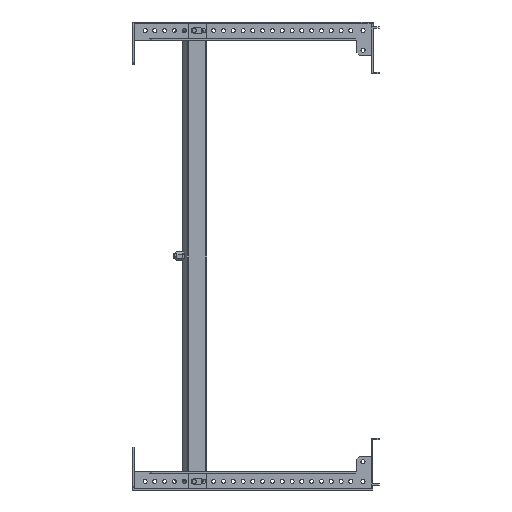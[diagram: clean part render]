
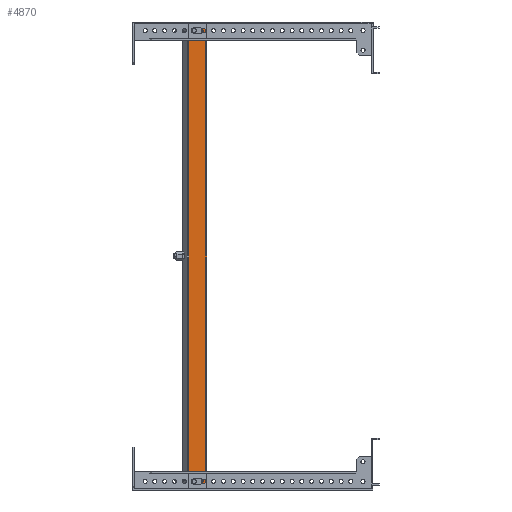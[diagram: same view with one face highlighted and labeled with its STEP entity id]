
A CAD part, front view. The second image highlights one B-rep face of the part: STEP entity #4870.
In plain terms, the highlighted planar face has unit normal (0, -1, 0).
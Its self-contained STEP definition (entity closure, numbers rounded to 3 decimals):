
#379 = CARTESIAN_POINT ( 'NONE',  ( 1108.802, -254., -87.5 ) ) ;
#397 = DIRECTION ( 'NONE',  ( 0., 0., 1. ) ) ;
#496 = CARTESIAN_POINT ( 'NONE',  ( 1112.302, -254., -91. ) ) ;
#962 = EDGE_CURVE ( 'NONE', #21943, #27904, #20774, .T. ) ;
#1446 = CARTESIAN_POINT ( 'NONE',  ( 1112.302, -254., -84. ) ) ;
#1612 = DIRECTION ( 'NONE',  ( 1., 0., 0. ) ) ;
#2038 = ORIENTED_EDGE ( 'NONE', *, *, #4882, .T. ) ;
#3111 = CIRCLE ( 'NONE', #27815, 3.5 ) ;
#3124 = VERTEX_POINT ( 'NONE', #3673 ) ;
#3562 = CARTESIAN_POINT ( 'NONE',  ( 1112.302, -254., 487.5 ) ) ;
#3673 = CARTESIAN_POINT ( 'NONE',  ( 1128.304, -254., 497.5 ) ) ;
#4023 = DIRECTION ( 'NONE',  ( 0., 0., 1. ) ) ;
#4119 = AXIS2_PLACEMENT_3D ( 'NONE', #12799, #22494, #22217 ) ;
#4790 = CIRCLE ( 'NONE', #29476, 3.5 ) ;
#4855 = CARTESIAN_POINT ( 'NONE',  ( 1120.302, -254., 484. ) ) ;
#4870 = ADVANCED_FACE ( 'NONE', ( #17537, #10420, #27213 ), #20281, .F. ) ;
#4882 = EDGE_CURVE ( 'NONE', #24624, #18056, #8671, .T. ) ;
#4948 = DIRECTION ( 'NONE',  ( -1., 0., 0. ) ) ;
#4950 = EDGE_CURVE ( 'NONE', #23881, #22198, #11772, .T. ) ;
#5260 = EDGE_CURVE ( 'NONE', #18056, #18925, #4790, .T. ) ;
#5887 = VERTEX_POINT ( 'NONE', #9719 ) ;
#6214 = CARTESIAN_POINT ( 'NONE',  ( 1105.802, -254., -97.5 ) ) ;
#6742 = ORIENTED_EDGE ( 'NONE', *, *, #20027, .F. ) ;
#6854 = EDGE_CURVE ( 'NONE', #15918, #23410, #3111, .T. ) ;
#7097 = CIRCLE ( 'NONE', #27437, 3.5 ) ;
#7559 = ORIENTED_EDGE ( 'NONE', *, *, #4950, .F. ) ;
#7728 = ORIENTED_EDGE ( 'NONE', *, *, #15025, .T. ) ;
#8061 = CARTESIAN_POINT ( 'NONE',  ( 1112.302, -254., 491. ) ) ;
#8135 = VECTOR ( 'NONE', #4948, 1000. ) ;
#8215 = CARTESIAN_POINT ( 'NONE',  ( 1120.302, -254., 487.5 ) ) ;
#8283 = DIRECTION ( 'NONE',  ( 0., 1., 0. ) ) ;
#8671 = CIRCLE ( 'NONE', #21239, 3.5 ) ;
#8930 = CARTESIAN_POINT ( 'NONE',  ( 1105.802, -254., 497.5 ) ) ;
#9087 = CARTESIAN_POINT ( 'NONE',  ( 1112.302, -254., -91. ) ) ;
#9719 = CARTESIAN_POINT ( 'NONE',  ( 1120.302, -254., -91. ) ) ;
#9921 = CARTESIAN_POINT ( 'NONE',  ( 1112.302, -254., 484. ) ) ;
#10133 = EDGE_LOOP ( 'NONE', ( #2038, #23129, #14153, #16650, #19916 ) ) ;
#10176 = CARTESIAN_POINT ( 'NONE',  ( 1112.302, -254., 484. ) ) ;
#10420 = FACE_BOUND ( 'NONE', #10133, .T. ) ;
#10602 = LINE ( 'NONE', #15451, #27401 ) ;
#10831 = DIRECTION ( 'NONE',  ( -1., 0., 0. ) ) ;
#11023 = ORIENTED_EDGE ( 'NONE', *, *, #15447, .F. ) ;
#11072 = EDGE_CURVE ( 'NONE', #12946, #5887, #15477, .T. ) ;
#11315 = CARTESIAN_POINT ( 'NONE',  ( 1112.302, -254., -84. ) ) ;
#11672 = CARTESIAN_POINT ( 'NONE',  ( 1105.802, -254., -97.5 ) ) ;
#11772 = LINE ( 'NONE', #11315, #22696 ) ;
#11850 = VECTOR ( 'NONE', #1612, 1000. ) ;
#11984 = EDGE_LOOP ( 'NONE', ( #18704, #29131, #17160, #7728 ) ) ;
#12098 = DIRECTION ( 'NONE',  ( 0., -1., 0. ) ) ;
#12520 = CIRCLE ( 'NONE', #29455, 3.5 ) ;
#12799 = CARTESIAN_POINT ( 'NONE',  ( 1120.302, -254., -87.5 ) ) ;
#12932 = DIRECTION ( 'NONE',  ( 0., 1., 0. ) ) ;
#12933 = DIRECTION ( 'NONE',  ( 1., 0., 0. ) ) ;
#12946 = VERTEX_POINT ( 'NONE', #496 ) ;
#13287 = CARTESIAN_POINT ( 'NONE',  ( 1150.77, -254., 200. ) ) ;
#13431 = VECTOR ( 'NONE', #28248, 1000. ) ;
#14153 = ORIENTED_EDGE ( 'NONE', *, *, #24296, .T. ) ;
#14338 = VECTOR ( 'NONE', #27260, 1000. ) ;
#14521 = DIRECTION ( 'NONE',  ( -1., 0., 0. ) ) ;
#14991 = EDGE_LOOP ( 'NONE', ( #27197, #15900, #6742, #7559, #11023 ) ) ;
#15025 = EDGE_CURVE ( 'NONE', #25368, #3124, #10602, .T. ) ;
#15083 = CARTESIAN_POINT ( 'NONE',  ( 1112.302, -254., 487.5 ) ) ;
#15447 = EDGE_CURVE ( 'NONE', #5887, #23881, #20581, .T. ) ;
#15451 = CARTESIAN_POINT ( 'NONE',  ( 1128.304, -254., -100.859 ) ) ;
#15477 = LINE ( 'NONE', #9087, #11850 ) ;
#15896 = DIRECTION ( 'NONE',  ( -1., 0., 0. ) ) ;
#15900 = ORIENTED_EDGE ( 'NONE', *, *, #18035, .F. ) ;
#15918 = VERTEX_POINT ( 'NONE', #27744 ) ;
#16502 = CARTESIAN_POINT ( 'NONE',  ( 1112.302, -254., -87.5 ) ) ;
#16650 = ORIENTED_EDGE ( 'NONE', *, *, #6854, .T. ) ;
#16928 = CARTESIAN_POINT ( 'NONE',  ( 1128.304, -254., -97.5 ) ) ;
#16941 = CARTESIAN_POINT ( 'NONE',  ( 1108.802, -254., 487.5 ) ) ;
#17160 = ORIENTED_EDGE ( 'NONE', *, *, #19542, .F. ) ;
#17402 = DIRECTION ( 'NONE',  ( 1., 0., 0. ) ) ;
#17537 = FACE_BOUND ( 'NONE', #14991, .T. ) ;
#18035 = EDGE_CURVE ( 'NONE', #26982, #12946, #7097, .T. ) ;
#18038 = LINE ( 'NONE', #8930, #14338 ) ;
#18056 = VERTEX_POINT ( 'NONE', #16941 ) ;
#18704 = ORIENTED_EDGE ( 'NONE', *, *, #26020, .F. ) ;
#18925 = VERTEX_POINT ( 'NONE', #19433 ) ;
#19433 = CARTESIAN_POINT ( 'NONE',  ( 1112.302, -254., 491. ) ) ;
#19542 = EDGE_CURVE ( 'NONE', #25368, #21943, #28146, .T. ) ;
#19666 = DIRECTION ( 'NONE',  ( -1., 0., 0. ) ) ;
#19745 = DIRECTION ( 'NONE',  ( -1., 0., 0. ) ) ;
#19916 = ORIENTED_EDGE ( 'NONE', *, *, #28604, .T. ) ;
#20020 = DIRECTION ( 'NONE',  ( 0., -1., 0. ) ) ;
#20027 = EDGE_CURVE ( 'NONE', #22198, #26982, #12520, .T. ) ;
#20281 = PLANE ( 'NONE',  #28013 ) ;
#20581 = CIRCLE ( 'NONE', #4119, 3.5 ) ;
#20774 = LINE ( 'NONE', #6214, #23825 ) ;
#21154 = VECTOR ( 'NONE', #12933, 1000. ) ;
#21239 = AXIS2_PLACEMENT_3D ( 'NONE', #3562, #24339, #19666 ) ;
#21855 = LINE ( 'NONE', #8061, #21154 ) ;
#21943 = VERTEX_POINT ( 'NONE', #11672 ) ;
#22176 = DIRECTION ( 'NONE',  ( -1., 0., 0. ) ) ;
#22198 = VERTEX_POINT ( 'NONE', #1446 ) ;
#22217 = DIRECTION ( 'NONE',  ( -1., 0., 0. ) ) ;
#22269 = CARTESIAN_POINT ( 'NONE',  ( 1105.802, -254., 497.5 ) ) ;
#22494 = DIRECTION ( 'NONE',  ( 0., -1., 0. ) ) ;
#22696 = VECTOR ( 'NONE', #15896, 1000. ) ;
#23129 = ORIENTED_EDGE ( 'NONE', *, *, #5260, .T. ) ;
#23410 = VERTEX_POINT ( 'NONE', #4855 ) ;
#23825 = VECTOR ( 'NONE', #397, 1000. ) ;
#23881 = VERTEX_POINT ( 'NONE', #29158 ) ;
#24265 = CARTESIAN_POINT ( 'NONE',  ( 1112.302, -254., -87.5 ) ) ;
#24296 = EDGE_CURVE ( 'NONE', #18925, #15918, #21855, .T. ) ;
#24339 = DIRECTION ( 'NONE',  ( 0., 1., 0. ) ) ;
#24624 = VERTEX_POINT ( 'NONE', #10176 ) ;
#25368 = VERTEX_POINT ( 'NONE', #16928 ) ;
#25827 = LINE ( 'NONE', #9921, #13431 ) ;
#26020 = EDGE_CURVE ( 'NONE', #27904, #3124, #18038, .T. ) ;
#26982 = VERTEX_POINT ( 'NONE', #379 ) ;
#27197 = ORIENTED_EDGE ( 'NONE', *, *, #11072, .F. ) ;
#27213 = FACE_OUTER_BOUND ( 'NONE', #11984, .T. ) ;
#27260 = DIRECTION ( 'NONE',  ( 1., 0., 0. ) ) ;
#27401 = VECTOR ( 'NONE', #4023, 1000. ) ;
#27437 = AXIS2_PLACEMENT_3D ( 'NONE', #16502, #12098, #14521 ) ;
#27744 = CARTESIAN_POINT ( 'NONE',  ( 1120.302, -254., 491. ) ) ;
#27815 = AXIS2_PLACEMENT_3D ( 'NONE', #8215, #12932, #22176 ) ;
#27904 = VERTEX_POINT ( 'NONE', #22269 ) ;
#28013 = AXIS2_PLACEMENT_3D ( 'NONE', #13287, #8283, #17402 ) ;
#28015 = CARTESIAN_POINT ( 'NONE',  ( 1150.146, -254., -97.5 ) ) ;
#28146 = LINE ( 'NONE', #28015, #8135 ) ;
#28248 = DIRECTION ( 'NONE',  ( -1., 0., 0. ) ) ;
#28604 = EDGE_CURVE ( 'NONE', #23410, #24624, #25827, .T. ) ;
#29131 = ORIENTED_EDGE ( 'NONE', *, *, #962, .F. ) ;
#29158 = CARTESIAN_POINT ( 'NONE',  ( 1120.302, -254., -84. ) ) ;
#29455 = AXIS2_PLACEMENT_3D ( 'NONE', #24265, #20020, #19745 ) ;
#29471 = DIRECTION ( 'NONE',  ( 0., 1., 0. ) ) ;
#29476 = AXIS2_PLACEMENT_3D ( 'NONE', #15083, #29471, #10831 ) ;
